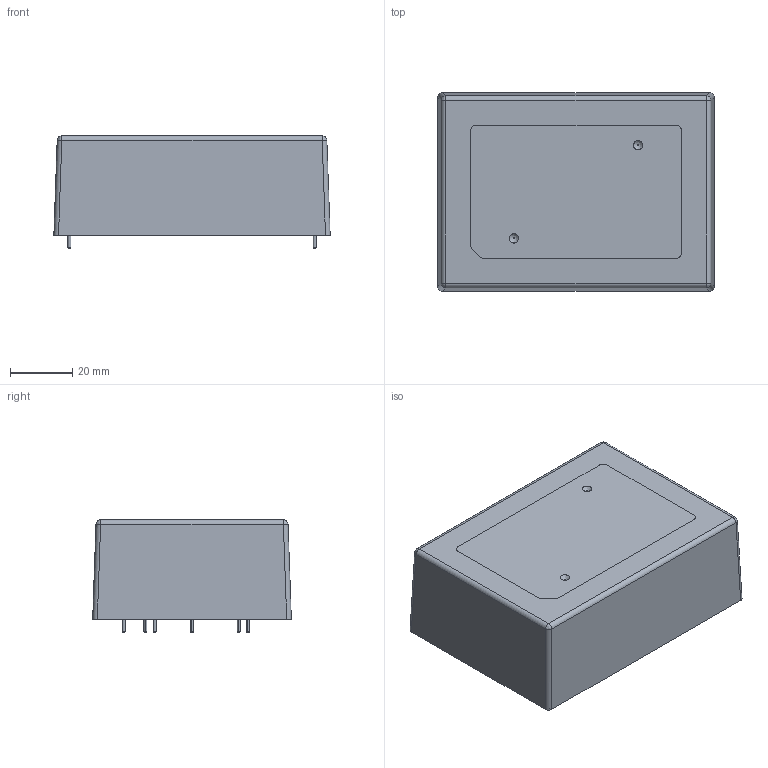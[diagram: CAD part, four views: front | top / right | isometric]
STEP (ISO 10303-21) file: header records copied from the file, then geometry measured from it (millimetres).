
FILE_DESCRIPTION (( 'STEP AP203' ), '1' );
FILE_NAME ('tmt50.STEP', '2013-03-22T14:33:14', ( '' ), ( '' ), 'SwSTEP 2.0', 'SolidWorks 2013', '' );
FILE_SCHEMA (( 'CONFIG_CONTROL_DESIGN' ));
Length unit declared in the file: millimetre
Products named in the file (9): -ﾎｦ｢(T1); tmt50; pinﾅﾒｦｦ｢; è¯ö-50W; ë¦¦¦¢(ÉÔëÅö-+À+¦¦¿+Ð_FR765); -祕; C3ｦｦ+ﾌｦ+; ò·öMö-(DñD7); ò·öMö-(D1ñIC1)
Assembly tree (13 placements, depth 2):
  tmt50
    pinﾅﾒｦｦ｢
    è¯ö-50W
    ë¦¦¦¢(ÉÔëÅö-+À+¦¦¿+Ð_FR765)
    -祕  x6
    C3ｦｦ+ﾌｦ+
    ò·öMö-(DñD7)
    ò·öMö-(D1ñIC1)
    -ﾎｦ｢(T1)
Bounding box: 89 x 64 x 36.2 mm (x, y, z)
Volume: 50648.5 mm3; surface area: 67179.1 mm2
Topology: 12 solids, 14 shells, 522 faces, 1354 edges, 894 vertices
Faces by surface type: plane 340, cylinder 77, bspline 73, cone 28, sphere 4
Full cylindrical faces by diameter (mm): 18 x1
Entity records: 16666 total; most frequent: CARTESIAN_POINT 3913, ORIENTED_EDGE 2560, DIRECTION 2084, EDGE_CURVE 1282, VECTOR 976, LINE 976, VERTEX_POINT 855, EDGE_LOOP 565
